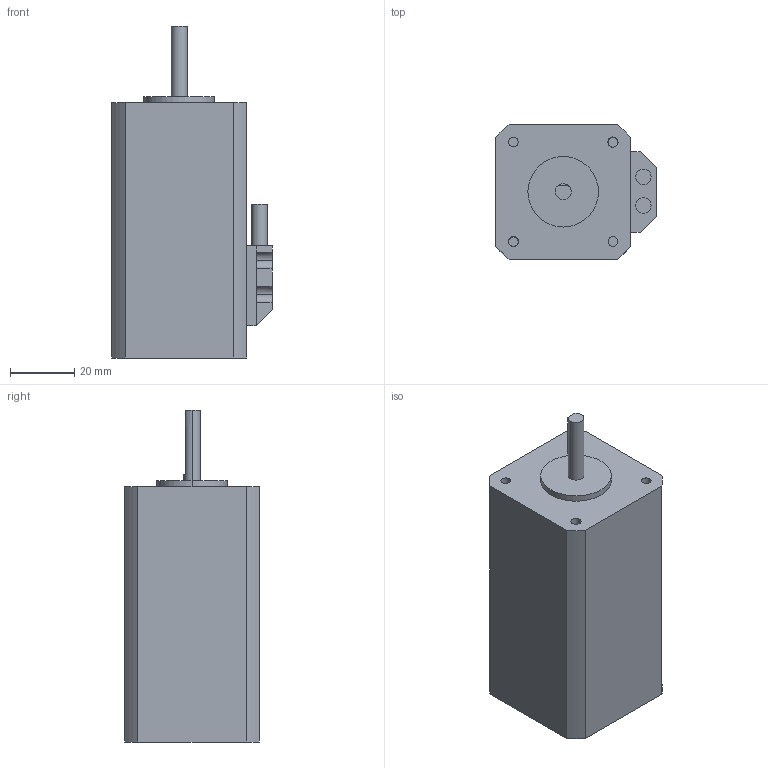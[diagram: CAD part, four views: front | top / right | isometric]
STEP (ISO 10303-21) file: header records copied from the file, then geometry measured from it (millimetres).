
FILE_DESCRIPTION (( 'STEP AP203' ), '1' );
FILE_NAME ('42HE260-20A4-0524-004.STEP', '2026-04-13T02:01:50', ( '' ), ( '' ), 'SwSTEP 2.0', 'SolidWorks 2024', '' );
FILE_SCHEMA (( 'CONFIG_CONTROL_DESIGN' ));
Length unit declared in the file: millimetre
Products named in the file (3): cross recessed small pan head screws gb_GB_CROSS_SCREWS_TYPE3 M3X30-30-N; 42HE60-20A4-0524-004; 42HE260-20A4-0524-004
Assembly tree (3 placements, depth 2):
  42HE260-20A4-0524-004
    42HE60-20A4-0524-004
    cross recessed small pan head screws gb_GB_CROSS_SCREWS_TYPE3 M3X30-30-N  x2
Bounding box: 50 x 42 x 103.5 mm (x, y, z)
Volume: 142039.9 mm3; surface area: 21444.2 mm2
Topology: 4 solids, 4 shells, 141 faces, 347 edges, 228 vertices
Faces by surface type: plane 75, cylinder 62, sphere 4
Entity records: 3800 total; most frequent: DIRECTION 637, CARTESIAN_POINT 631, ORIENTED_EDGE 562, EDGE_CURVE 281, AXIS2_PLACEMENT_3D 246, VERTEX_POINT 184, LINE 145, VECTOR 145
